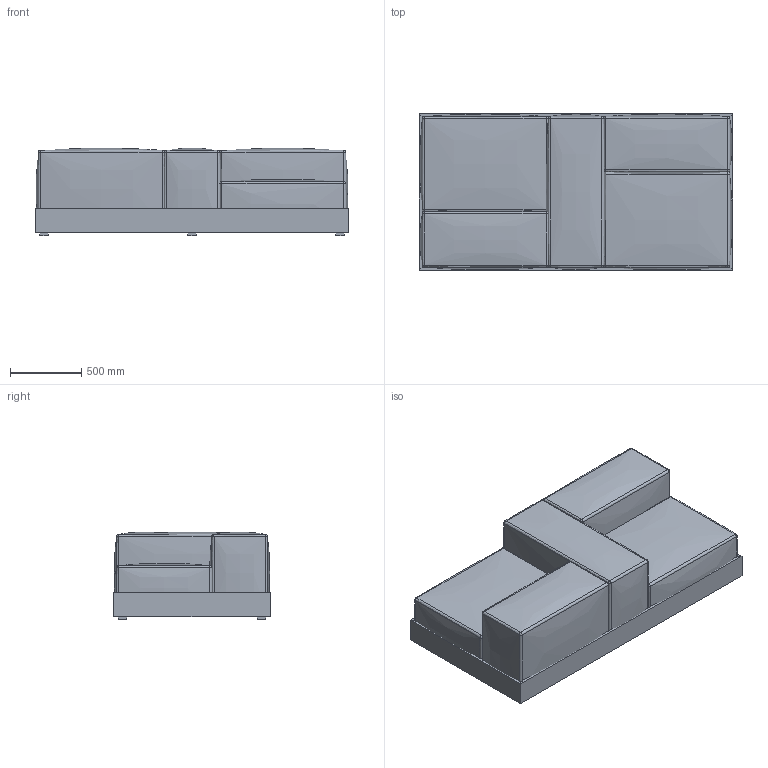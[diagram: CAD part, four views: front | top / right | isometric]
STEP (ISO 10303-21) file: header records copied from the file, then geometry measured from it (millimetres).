
FILE_DESCRIPTION(/* description */ (''),/* implementation_level */ '2;1');
FILE_NAME(/* name */ 'Polp1 220 blc vis a vis.step',/* time_stamp */ '2024-01-07T10:00:03+01:00',/* author */ (''),/* organization */ (''),/* preprocessor_version */ 'ST-DEVELOPER v20',/* originating_system */ 'Autodesk Translation Framework v12.14.0.127',/* authorisation */ '');
FILE_SCHEMA (('AUTOMOTIVE_DESIGN { 1 0 10303 214 3 1 1 }'));
Length unit declared in the file: millimetre
Products named in the file (6): Polp1 220 blc vis a vis; Component1; Component2; Component5; Component9; Component10
Assembly tree (5 placements, depth 2):
  Polp1 220 blc vis a vis
    Component1
    Component2
    Component5
    Component9
    Component10
Bounding box: 2200 x 1100 x 615 mm (x, y, z)
Volume: 1103471330.6 mm3; surface area: 18356367.8 mm2
Topology: 21 solids, 21 shells, 226 faces, 432 edges, 248 vertices
Faces by surface type: plane 105, bspline 77, sphere 40, cylinder 4
Entity records: 14656 total; most frequent: CARTESIAN_POINT 10325, ORIENTED_EDGE 864, DIRECTION 760, EDGE_CURVE 432, AXIS2_PLACEMENT_3D 280, VERTEX_POINT 248, FACE_OUTER_BOUND 226, EDGE_LOOP 226
